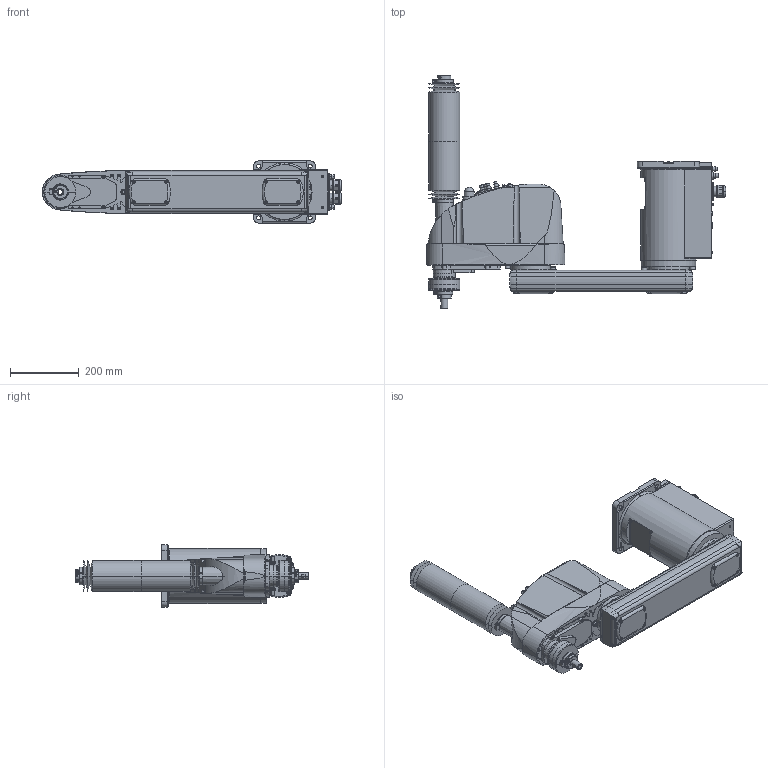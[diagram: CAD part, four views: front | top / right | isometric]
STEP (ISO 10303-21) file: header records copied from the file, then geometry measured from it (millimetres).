
FILE_DESCRIPTION( ( '' ), '1' );
FILE_NAME( '//expscmdclustefs.cadenas.external/client_exchange/iodir/jobs/output/wkb51545286_no0/STEP/G6_653CR_2_03.stp', '2012-11-23T12:39:49', ( '' ), ( '' ), ' ', ' ', ' ' );
FILE_SCHEMA( ( 'CONFIG_CONTROL_DESIGN' ) );
Length unit declared in the file: millimetre
Products named in the file (8): 1; 2; 3; 4; 5; 6; 7; 8
Bounding box: 867.5 x 676 x 180 mm (x, y, z)
Volume: 23038665.3 mm3; surface area: 1185872.1 mm2
Topology: 8 solids, 8 shells, 1798 faces, 4383 edges, 2813 vertices
Faces by surface type: plane 926, cylinder 604, cone 232, torus 35, sphere 1
Entity records: 56370 total; most frequent: CARTESIAN_POINT 12826, DIRECTION 9272, ORIENTED_EDGE 8714, EDGE_CURVE 4357, AXIS2_PLACEMENT_3D 3329, VERTEX_POINT 2813, LINE 2614, VECTOR 2614
